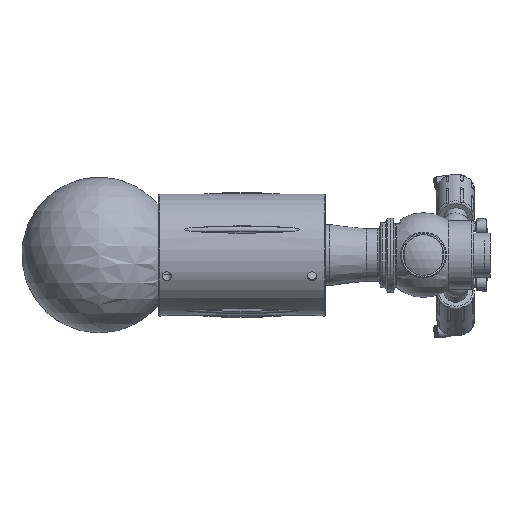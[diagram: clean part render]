
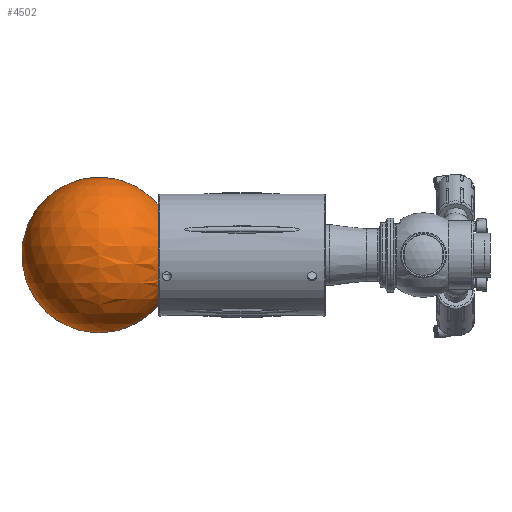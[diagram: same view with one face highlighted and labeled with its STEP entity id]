
A CAD part, left-side view. The second image highlights one B-rep face of the part: STEP entity #4502.
In plain terms, the highlighted spherical face has radius 72.5 mm.
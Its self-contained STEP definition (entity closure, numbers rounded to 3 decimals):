
#169=FACE_BOUND('',#1327,.T.);
#801=SPHERICAL_SURFACE('',#5091,72.5);
#1061=FACE_OUTER_BOUND('',#1326,.T.);
#1326=EDGE_LOOP('',(#3572,#3573));
#1327=EDGE_LOOP('',(#3574));
#1652=CIRCLE('',#5092,72.5);
#1653=CIRCLE('',#5093,46.648);
#2022=VERTEX_POINT('',#8036);
#2023=VERTEX_POINT('',#8037);
#2024=VERTEX_POINT('',#8039);
#2590=EDGE_CURVE('',#2022,#2023,#1652,.T.);
#2591=EDGE_CURVE('',#2024,#2024,#1653,.T.);
#3572=ORIENTED_EDGE('',*,*,#2590,.T.);
#3573=ORIENTED_EDGE('',*,*,#2590,.F.);
#3574=ORIENTED_EDGE('',*,*,#2591,.F.);
#4502=ADVANCED_FACE('',(#1061,#169),#801,.T.);
#5091=AXIS2_PLACEMENT_3D('',#8035,#6017,#6018);
#5092=AXIS2_PLACEMENT_3D('',#8038,#6019,#6020);
#5093=AXIS2_PLACEMENT_3D('',#8040,#6021,#6022);
#6017=DIRECTION('center_axis',(0.,0.,1.));
#6018=DIRECTION('ref_axis',(1.,0.,0.));
#6019=DIRECTION('center_axis',(0.,-1.,0.));
#6020=DIRECTION('ref_axis',(-1.,0.,0.));
#6021=DIRECTION('center_axis',(0.,-1.,0.));
#6022=DIRECTION('ref_axis',(1.,0.,0.));
#8035=CARTESIAN_POINT('Origin',(150.,266.5,0.));
#8036=CARTESIAN_POINT('',(150.,266.5,72.5));
#8037=CARTESIAN_POINT('',(150.,266.5,-72.5));
#8038=CARTESIAN_POINT('Origin',(150.,266.5,0.));
#8039=CARTESIAN_POINT('',(196.648,211.,0.));
#8040=CARTESIAN_POINT('Origin',(150.,211.,0.));
